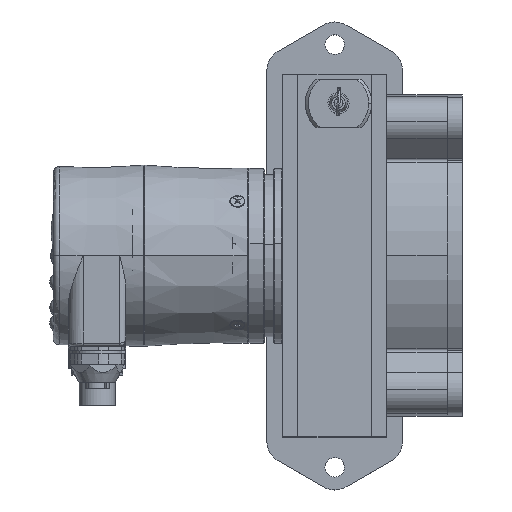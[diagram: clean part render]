
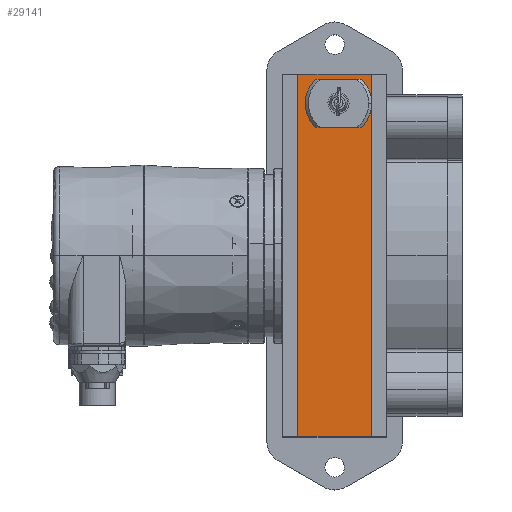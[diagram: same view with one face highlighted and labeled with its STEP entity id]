
A CAD part, top view. The second image highlights one B-rep face of the part: STEP entity #29141.
In plain terms, the highlighted planar face has unit normal (0, 0, 1).
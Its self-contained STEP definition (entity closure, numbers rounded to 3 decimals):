
#13167 = VERTEX_POINT ( 'NONE', #39237 ) ;
#13168 = VERTEX_POINT ( 'NONE', #39236 ) ;
#13182 = VERTEX_POINT ( 'NONE', #39295 ) ;
#13185 = EDGE_CURVE ( 'NONE', #13182, #13237, #39276, .T. ) ;
#13231 = EDGE_CURVE ( 'NONE', #13232, #13233, #39468, .T. ) ;
#13232 = VERTEX_POINT ( 'NONE', #39459 ) ;
#13233 = VERTEX_POINT ( 'NONE', #39458 ) ;
#13237 = VERTEX_POINT ( 'NONE', #39452 ) ;
#13249 = EDGE_CURVE ( 'NONE', #13167, #13168, #39537, .T. ) ;
#13300 = VERTEX_POINT ( 'NONE', #39654 ) ;
#13302 = EDGE_CURVE ( 'NONE', #13300, #13303, #39653, .T. ) ;
#13303 = VERTEX_POINT ( 'NONE', #39649 ) ;
#13319 = EDGE_CURVE ( 'NONE', #13237, #13182, #39711, .T. ) ;
#13326 = EDGE_CURVE ( 'NONE', #13233, #13232, #39743, .T. ) ;
#13337 = EDGE_CURVE ( 'NONE', #13168, #13167, #39825, .T. ) ;
#17089 = DIRECTION ( 'NONE',  ( 0., 1., 0. ) ) ;
#17090 = VECTOR ( 'NONE', #17089, 1000. ) ;
#17091 = CARTESIAN_POINT ( 'NONE',  ( 0., -73.853, 68.584 ) ) ;
#17092 = LINE ( 'NONE', #17091, #17090 ) ;
#17228 = CARTESIAN_POINT ( 'NONE',  ( 0., -73.853, 68.584 ) ) ;
#17350 = CARTESIAN_POINT ( 'NONE',  ( 24.5, -73.853, 68.584 ) ) ;
#17381 = DIRECTION ( 'NONE',  ( 0., 1., 0. ) ) ;
#17382 = VECTOR ( 'NONE', #17381, 1000. ) ;
#17383 = CARTESIAN_POINT ( 'NONE',  ( 24.5, 46.147, 68.584 ) ) ;
#17384 = LINE ( 'NONE', #17383, #17382 ) ;
#29110 = EDGE_LOOP ( 'NONE', ( #29251, #29293, #29275, #67582 ) ) ;
#29141 = ADVANCED_FACE ( 'NONE', ( #61864, #61863, #61862, #61861 ), #61896, .F. ) ;
#29251 = ORIENTED_EDGE ( 'NONE', *, *, #13302, .F. ) ;
#29275 = ORIENTED_EDGE ( 'NONE', *, *, #30857, .T. ) ;
#29293 = ORIENTED_EDGE ( 'NONE', *, *, #67058, .F. ) ;
#29484 = ORIENTED_EDGE ( 'NONE', *, *, #13231, .F. ) ;
#29523 = ORIENTED_EDGE ( 'NONE', *, *, #13326, .F. ) ;
#30857 = EDGE_CURVE ( 'NONE', #67172, #67581, #62077, .T. ) ;
#31401 = ORIENTED_EDGE ( 'NONE', *, *, #13319, .F. ) ;
#31403 = ORIENTED_EDGE ( 'NONE', *, *, #13185, .F. ) ;
#31417 = EDGE_LOOP ( 'NONE', ( #31592, #31531 ) ) ;
#31531 = ORIENTED_EDGE ( 'NONE', *, *, #13337, .F. ) ;
#31542 = EDGE_LOOP ( 'NONE', ( #29484, #29523 ) ) ;
#31592 = ORIENTED_EDGE ( 'NONE', *, *, #13249, .F. ) ;
#39236 = CARTESIAN_POINT ( 'NONE',  ( 19.9, 36.447, 68.584 ) ) ;
#39237 = CARTESIAN_POINT ( 'NONE',  ( 23.1, 36.447, 68.584 ) ) ;
#39276 = CIRCLE ( 'NONE', #39327, 5.5 ) ;
#39295 = CARTESIAN_POINT ( 'NONE',  ( 19., 36.447, 68.584 ) ) ;
#39324 = DIRECTION ( 'NONE',  ( -1., 0., 0. ) ) ;
#39325 = DIRECTION ( 'NONE',  ( 0., 0., 1. ) ) ;
#39326 = CARTESIAN_POINT ( 'NONE',  ( 13.5, 36.447, 68.584 ) ) ;
#39327 = AXIS2_PLACEMENT_3D ( 'NONE', #39326, #39325, #39324 ) ;
#39452 = CARTESIAN_POINT ( 'NONE',  ( 8., 36.447, 68.584 ) ) ;
#39458 = CARTESIAN_POINT ( 'NONE',  ( 3.9, 36.447, 68.584 ) ) ;
#39459 = CARTESIAN_POINT ( 'NONE',  ( 7.1, 36.447, 68.584 ) ) ;
#39460 = DIRECTION ( 'NONE',  ( 1., 0., 0. ) ) ;
#39461 = DIRECTION ( 'NONE',  ( 0., 0., 1. ) ) ;
#39462 = CARTESIAN_POINT ( 'NONE',  ( 5.5, 36.447, 68.584 ) ) ;
#39463 = AXIS2_PLACEMENT_3D ( 'NONE', #39462, #39461, #39460 ) ;
#39468 = CIRCLE ( 'NONE', #39463, 1.6 ) ;
#39529 = DIRECTION ( 'NONE',  ( 1., 0., 0. ) ) ;
#39530 = DIRECTION ( 'NONE',  ( 0., 0., 1. ) ) ;
#39531 = CARTESIAN_POINT ( 'NONE',  ( 21.5, 36.447, 68.584 ) ) ;
#39532 = AXIS2_PLACEMENT_3D ( 'NONE', #39531, #39530, #39529 ) ;
#39537 = CIRCLE ( 'NONE', #39532, 1.6 ) ;
#39649 = CARTESIAN_POINT ( 'NONE',  ( 24.5, 46.147, 68.584 ) ) ;
#39650 = DIRECTION ( 'NONE',  ( 1., 0., 0. ) ) ;
#39651 = VECTOR ( 'NONE', #39650, 1000. ) ;
#39652 = CARTESIAN_POINT ( 'NONE',  ( 0., 46.147, 68.584 ) ) ;
#39653 = LINE ( 'NONE', #39652, #39651 ) ;
#39654 = CARTESIAN_POINT ( 'NONE',  ( 0., 46.147, 68.584 ) ) ;
#39711 = CIRCLE ( 'NONE', #39763, 5.5 ) ;
#39736 = DIRECTION ( 'NONE',  ( 0., 0., 1. ) ) ;
#39737 = CARTESIAN_POINT ( 'NONE',  ( 5.5, 36.447, 68.584 ) ) ;
#39738 = AXIS2_PLACEMENT_3D ( 'NONE', #39737, #39736, #39792 ) ;
#39743 = CIRCLE ( 'NONE', #39738, 1.6 ) ;
#39760 = DIRECTION ( 'NONE',  ( -1., 0., 0. ) ) ;
#39761 = DIRECTION ( 'NONE',  ( 0., 0., 1. ) ) ;
#39762 = CARTESIAN_POINT ( 'NONE',  ( 13.5, 36.447, 68.584 ) ) ;
#39763 = AXIS2_PLACEMENT_3D ( 'NONE', #39762, #39761, #39760 ) ;
#39792 = DIRECTION ( 'NONE',  ( 1., 0., 0. ) ) ;
#39816 = DIRECTION ( 'NONE',  ( 1., 0., 0. ) ) ;
#39817 = DIRECTION ( 'NONE',  ( 0., 0., 1. ) ) ;
#39818 = CARTESIAN_POINT ( 'NONE',  ( 21.5, 36.447, 68.584 ) ) ;
#39819 = AXIS2_PLACEMENT_3D ( 'NONE', #39818, #39817, #39816 ) ;
#39825 = CIRCLE ( 'NONE', #39819, 1.6 ) ;
#61861 = FACE_BOUND ( 'NONE', #31542, .T. ) ;
#61862 = FACE_BOUND ( 'NONE', #31417, .T. ) ;
#61863 = FACE_BOUND ( 'NONE', #67567, .T. ) ;
#61864 = FACE_OUTER_BOUND ( 'NONE', #29110, .T. ) ;
#61891 = DIRECTION ( 'NONE',  ( 1., 0., 0. ) ) ;
#61892 = DIRECTION ( 'NONE',  ( 0., 0., -1. ) ) ;
#61893 = CARTESIAN_POINT ( 'NONE',  ( 0., -73.853, 68.584 ) ) ;
#61894 = AXIS2_PLACEMENT_3D ( 'NONE', #61893, #61892, #61891 ) ;
#61896 = PLANE ( 'NONE',  #61894 ) ;
#62074 = DIRECTION ( 'NONE',  ( 1., 0., 0. ) ) ;
#62075 = VECTOR ( 'NONE', #62074, 1000. ) ;
#62076 = CARTESIAN_POINT ( 'NONE',  ( 0., -73.853, 68.584 ) ) ;
#62077 = LINE ( 'NONE', #62076, #62075 ) ;
#67058 = EDGE_CURVE ( 'NONE', #67172, #13300, #17092, .T. ) ;
#67172 = VERTEX_POINT ( 'NONE', #17228 ) ;
#67567 = EDGE_LOOP ( 'NONE', ( #31401, #31403 ) ) ;
#67581 = VERTEX_POINT ( 'NONE', #17350 ) ;
#67582 = ORIENTED_EDGE ( 'NONE', *, *, #67586, .T. ) ;
#67586 = EDGE_CURVE ( 'NONE', #67581, #13303, #17384, .T. ) ;
